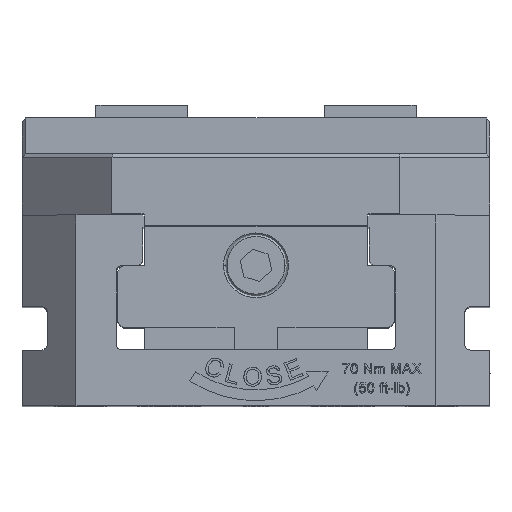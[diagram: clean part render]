
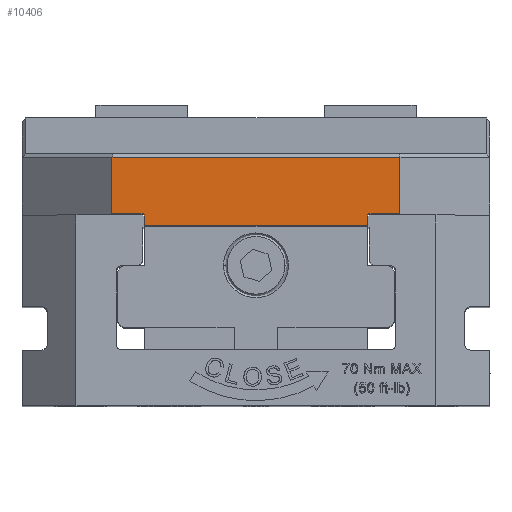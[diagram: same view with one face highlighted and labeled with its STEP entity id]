
A CAD part, top view. The second image highlights one B-rep face of the part: STEP entity #10406.
In plain terms, the highlighted planar face has unit normal (0, 0, 1).
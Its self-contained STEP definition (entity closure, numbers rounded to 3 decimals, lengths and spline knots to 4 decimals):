
#151 = LINE ( 'NONE', #132991, #34029 ) ;
#271 = ORIENTED_EDGE ( 'NONE', *, *, #5179, .F. ) ;
#5179 = EDGE_CURVE ( 'NONE', #122518, #28129, #45433, .T. ) ;
#9844 = ORIENTED_EDGE ( 'NONE', *, *, #118697, .F. ) ;
#10111 = FACE_OUTER_BOUND ( 'NONE', #136009, .T. ) ;
#10406 = ADVANCED_FACE ( 'NONE', ( #10111 ), #143634, .F. ) ;
#11006 = CARTESIAN_POINT ( 'NONE',  ( -2.5591, 1.9685, 3.1496 ) ) ;
#13089 = DIRECTION ( 'NONE',  ( 0., 1., 0. ) ) ;
#18746 = ORIENTED_EDGE ( 'NONE', *, *, #119090, .F. ) ;
#20222 = LINE ( 'NONE', #30489, #113300 ) ;
#20223 = ORIENTED_EDGE ( 'NONE', *, *, #128362, .F. ) ;
#22084 = CIRCLE ( 'NONE', #103609, 0.015 ) ;
#24776 = CARTESIAN_POINT ( 'NONE',  ( -1.5748, 2.0866, 3.1496 ) ) ;
#25342 = EDGE_CURVE ( 'NONE', #122518, #63624, #22084, .T. ) ;
#26371 = VERTEX_POINT ( 'NONE', #31738 ) ;
#28129 = VERTEX_POINT ( 'NONE', #58325 ) ;
#29463 = VERTEX_POINT ( 'NONE', #34092 ) ;
#30489 = CARTESIAN_POINT ( 'NONE',  ( -1.2205, 2.0866, 3.1496 ) ) ;
#31738 = CARTESIAN_POINT ( 'NONE',  ( 1.2205, 2.0866, 3.1496 ) ) ;
#34029 = VECTOR ( 'NONE', #77539, 39.3701 ) ;
#34092 = CARTESIAN_POINT ( 'NONE',  ( 1.5748, 2.7165, 3.1496 ) ) ;
#35210 = DIRECTION ( 'NONE',  ( -1., 0., 0. ) ) ;
#36040 = CIRCLE ( 'NONE', #66321, 0.015 ) ;
#36389 = ORIENTED_EDGE ( 'NONE', *, *, #113100, .F. ) ;
#36412 = VECTOR ( 'NONE', #132158, 39.3701 ) ;
#38928 = VERTEX_POINT ( 'NONE', #55117 ) ;
#39762 = EDGE_CURVE ( 'NONE', #63537, #137135, #124741, .T. ) ;
#40238 = CARTESIAN_POINT ( 'NONE',  ( 1.5748, 2.0866, 3.1496 ) ) ;
#44716 = VECTOR ( 'NONE', #35210, 39.3701 ) ;
#45433 = LINE ( 'NONE', #89928, #44716 ) ;
#45856 = DIRECTION ( 'NONE',  ( 0., 0., -1. ) ) ;
#49952 = ORIENTED_EDGE ( 'NONE', *, *, #105728, .F. ) ;
#52858 = EDGE_CURVE ( 'NONE', #26371, #38928, #99208, .T. ) ;
#55117 = CARTESIAN_POINT ( 'NONE',  ( 1.2355, 2.1016, 3.1496 ) ) ;
#57822 = VERTEX_POINT ( 'NONE', #79627 ) ;
#58325 = CARTESIAN_POINT ( 'NONE',  ( -1.5598, 2.1016, 3.1496 ) ) ;
#59650 = DIRECTION ( 'NONE',  ( 1., 0., 0. ) ) ;
#60359 = DIRECTION ( 'NONE',  ( 0., 0., -1. ) ) ;
#60495 = VERTEX_POINT ( 'NONE', #98239 ) ;
#61650 = EDGE_CURVE ( 'NONE', #74788, #77745, #36040, .T. ) ;
#63537 = VERTEX_POINT ( 'NONE', #116603 ) ;
#63624 = VERTEX_POINT ( 'NONE', #107103 ) ;
#65375 = DIRECTION ( 'NONE',  ( 1., 0., 0. ) ) ;
#65902 = AXIS2_PLACEMENT_3D ( 'NONE', #89571, #86698, #131202 ) ;
#66321 = AXIS2_PLACEMENT_3D ( 'NONE', #103433, #60359, #59650 ) ;
#66338 = CARTESIAN_POINT ( 'NONE',  ( -1.2355, 2.0866, 3.1496 ) ) ;
#68115 = CARTESIAN_POINT ( 'NONE',  ( 1.5748, 2.0866, 3.1496 ) ) ;
#68747 = ORIENTED_EDGE ( 'NONE', *, *, #52858, .T. ) ;
#73365 = CARTESIAN_POINT ( 'NONE',  ( 1.2205, 2.0866, 3.1496 ) ) ;
#74788 = VERTEX_POINT ( 'NONE', #143840 ) ;
#75152 = LINE ( 'NONE', #140830, #126238 ) ;
#76592 = DIRECTION ( 'NONE',  ( 0., 0., -1. ) ) ;
#76909 = AXIS2_PLACEMENT_3D ( 'NONE', #112241, #45856, #104697 ) ;
#77539 = DIRECTION ( 'NONE',  ( -1., 0., 0. ) ) ;
#77745 = VERTEX_POINT ( 'NONE', #68115 ) ;
#79627 = CARTESIAN_POINT ( 'NONE',  ( -1.2205, 1.9685, 3.1496 ) ) ;
#82090 = VECTOR ( 'NONE', #85040, 39.3701 ) ;
#85040 = DIRECTION ( 'NONE',  ( 0., -1., 0. ) ) ;
#85387 = ORIENTED_EDGE ( 'NONE', *, *, #115402, .T. ) ;
#85620 = CARTESIAN_POINT ( 'NONE',  ( -1.2355, 2.1016, 3.1496 ) ) ;
#86698 = DIRECTION ( 'NONE',  ( 0., 0., -1. ) ) ;
#87968 = CARTESIAN_POINT ( 'NONE',  ( 1.2355, 2.0866, 3.1496 ) ) ;
#89571 = CARTESIAN_POINT ( 'NONE',  ( -1.5598, 2.0866, 3.1496 ) ) ;
#89928 = CARTESIAN_POINT ( 'NONE',  ( -2.5591, 2.1016, 3.1496 ) ) ;
#93378 = VECTOR ( 'NONE', #116825, 39.3701 ) ;
#95259 = LINE ( 'NONE', #73365, #82090 ) ;
#96386 = LINE ( 'NONE', #40238, #93378 ) ;
#98239 = CARTESIAN_POINT ( 'NONE',  ( 1.2205, 1.9685, 3.1496 ) ) ;
#98601 = LINE ( 'NONE', #11006, #36412 ) ;
#99208 = CIRCLE ( 'NONE', #129529, 0.015 ) ;
#100634 = DIRECTION ( 'NONE',  ( 1., 0., 0. ) ) ;
#100789 = CIRCLE ( 'NONE', #65902, 0.015 ) ;
#103433 = CARTESIAN_POINT ( 'NONE',  ( 1.5598, 2.0866, 3.1496 ) ) ;
#103609 = AXIS2_PLACEMENT_3D ( 'NONE', #66338, #76592, #100634 ) ;
#104697 = DIRECTION ( 'NONE',  ( 0., -1., 0. ) ) ;
#105728 = EDGE_CURVE ( 'NONE', #57822, #63624, #20222, .T. ) ;
#106368 = CARTESIAN_POINT ( 'NONE',  ( -1.5748, 2.7165, 3.1496 ) ) ;
#107103 = CARTESIAN_POINT ( 'NONE',  ( -1.2205, 2.0866, 3.1496 ) ) ;
#108159 = ORIENTED_EDGE ( 'NONE', *, *, #61650, .T. ) ;
#108702 = DIRECTION ( 'NONE',  ( -1., 0., 0. ) ) ;
#112241 = CARTESIAN_POINT ( 'NONE',  ( -2.5591, 2.0866, 3.1496 ) ) ;
#113100 = EDGE_CURVE ( 'NONE', #29463, #77745, #96386, .T. ) ;
#113300 = VECTOR ( 'NONE', #133310, 39.3701 ) ;
#114440 = ORIENTED_EDGE ( 'NONE', *, *, #39762, .F. ) ;
#115402 = EDGE_CURVE ( 'NONE', #63537, #28129, #100789, .T. ) ;
#116603 = CARTESIAN_POINT ( 'NONE',  ( -1.5748, 2.0866, 3.1496 ) ) ;
#116825 = DIRECTION ( 'NONE',  ( 0., -1., 0. ) ) ;
#118697 = EDGE_CURVE ( 'NONE', #60495, #57822, #98601, .T. ) ;
#119090 = EDGE_CURVE ( 'NONE', #74788, #38928, #151, .T. ) ;
#120809 = DIRECTION ( 'NONE',  ( 0., 0., -1. ) ) ;
#122518 = VERTEX_POINT ( 'NONE', #85620 ) ;
#122946 = VECTOR ( 'NONE', #13089, 39.3701 ) ;
#124741 = LINE ( 'NONE', #24776, #122946 ) ;
#126238 = VECTOR ( 'NONE', #108702, 39.3701 ) ;
#127655 = EDGE_CURVE ( 'NONE', #29463, #137135, #75152, .T. ) ;
#128362 = EDGE_CURVE ( 'NONE', #26371, #60495, #95259, .T. ) ;
#129529 = AXIS2_PLACEMENT_3D ( 'NONE', #87968, #120809, #65375 ) ;
#131202 = DIRECTION ( 'NONE',  ( 1., 0., 0. ) ) ;
#131445 = ORIENTED_EDGE ( 'NONE', *, *, #25342, .T. ) ;
#132158 = DIRECTION ( 'NONE',  ( -1., 0., 0. ) ) ;
#132991 = CARTESIAN_POINT ( 'NONE',  ( -2.5591, 2.1016, 3.1496 ) ) ;
#133310 = DIRECTION ( 'NONE',  ( 0., 1., 0. ) ) ;
#136009 = EDGE_LOOP ( 'NONE', ( #36389, #141544, #114440, #85387, #271, #131445, #49952, #9844, #20223, #68747, #18746, #108159 ) ) ;
#137135 = VERTEX_POINT ( 'NONE', #106368 ) ;
#140830 = CARTESIAN_POINT ( 'NONE',  ( -2.5591, 2.7165, 3.1496 ) ) ;
#141544 = ORIENTED_EDGE ( 'NONE', *, *, #127655, .T. ) ;
#143634 = PLANE ( 'NONE',  #76909 ) ;
#143840 = CARTESIAN_POINT ( 'NONE',  ( 1.5598, 2.1016, 3.1496 ) ) ;
